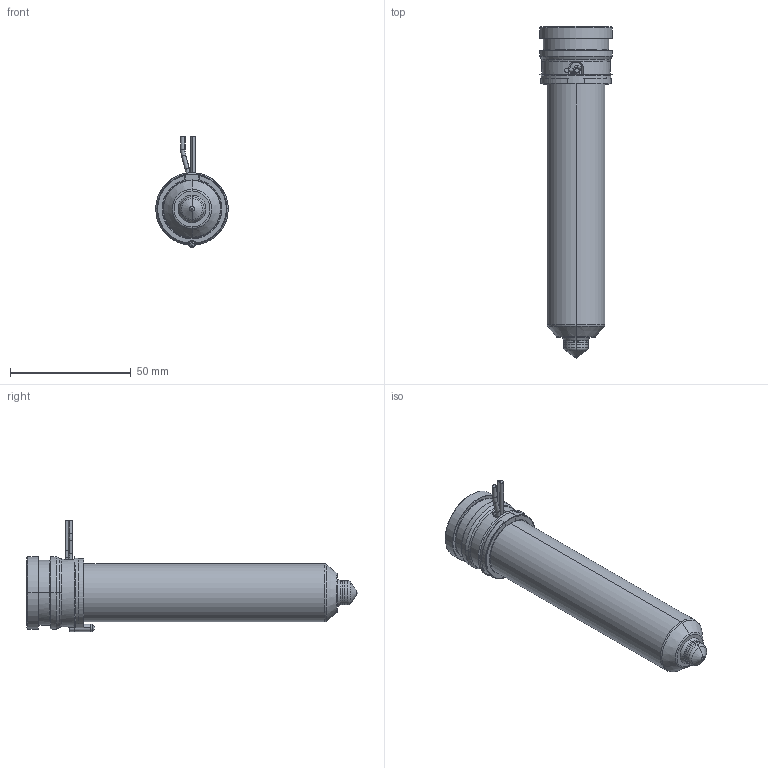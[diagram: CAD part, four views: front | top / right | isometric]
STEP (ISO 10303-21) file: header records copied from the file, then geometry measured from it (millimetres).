
FILE_DESCRIPTION((''),'2;1');
FILE_NAME('MPN-10-29-TX10-116-A','2026-02-11T11:17:20',('UVRWS'),('Thermoplay S.p.A.'),'CREO PARAMETRIC BY PTC INC, 2023494','CREO PARAMETRIC BY PTC INC, 2023494','');
FILE_SCHEMA(('CONFIG_CONTROL_DESIGN','SHAPE_APPEARANCE_LAYERS_GROUPS'));
Length unit declared in the file: millimetre
Products named in the file (1): MPN-10-29-TX10-116-A
Bounding box: 30 x 137.5 x 46 mm (x, y, z)
Volume: 43015.3 mm3; surface area: 43060.4 mm2
Topology: 2 solids, 3 shells, 551 faces, 1455 edges, 899 vertices
Faces by surface type: cylinder 180, plane 143, bspline 79, torus 68, cone 66, sphere 11, extrusion 4
Entity records: 28265 total; most frequent: CARTESIAN_POINT 11909, ORIENTED_EDGE 2894, DIRECTION 2641, EDGE_CURVE 1447, AXIS2_PLACEMENT_3D 1045, VERTEX_POINT 899, EDGE_LOOP 580, CIRCLE 576
